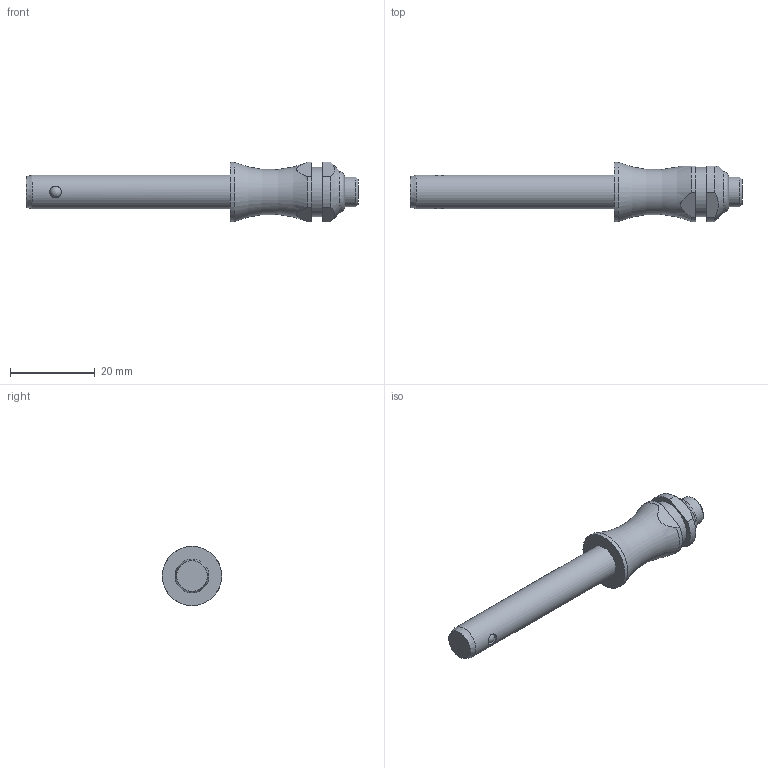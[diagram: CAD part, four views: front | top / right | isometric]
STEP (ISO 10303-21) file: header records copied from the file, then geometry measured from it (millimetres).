
FILE_DESCRIPTION( ( 'STEP AP203' ), '1' );
FILE_NAME( 'C:/Temp/Ganter_Step_05_03_2020/data/3_1/gn113_3/Stainless Steel-Ball lock pin GN 113.3-8-40 (activated).stp', '2020-03-12T08:18:25', ( 'License CC BY-ND 4.0' ), ( 'CADENAS' ), ' ', 'PARTsolutions', ' ' );
FILE_SCHEMA( ( 'CONFIG_CONTROL_DESIGN' ) );
Length unit declared in the file: millimetre
Products named in the file (1): _Stainless Steel-Ball lock pin GN 113.3-8-40 (activated)
Bounding box: 78.35 x 14 x 14 mm (x, y, z)
Volume: 5511.9 mm3; surface area: 2629 mm2
Topology: 1 solids, 1 shells, 30 faces, 72 edges, 45 vertices
Faces by surface type: cylinder 12, plane 11, cone 3, torus 2, sphere 2
Full cylindrical faces by diameter (mm): 2.78 x2, 7 x1, 8 x1, 11.6 x1, 14 x1
Entity records: 968 total; most frequent: CARTESIAN_POINT 321, DIRECTION 130, ORIENTED_EDGE 102, AXIS2_PLACEMENT_3D 56, EDGE_CURVE 51, EDGE_LOOP 46, VERTEX_POINT 39, FACE_OUTER_BOUND 38
